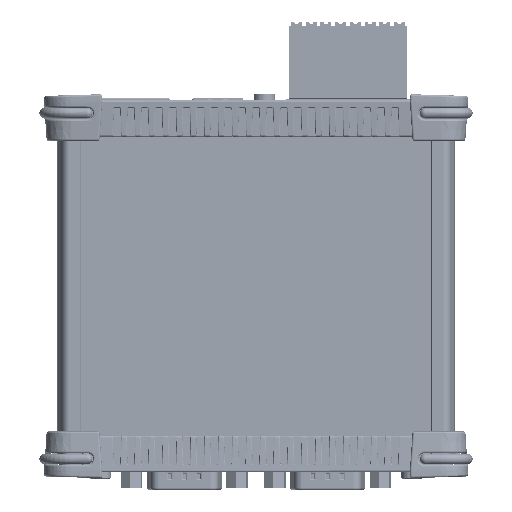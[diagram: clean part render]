
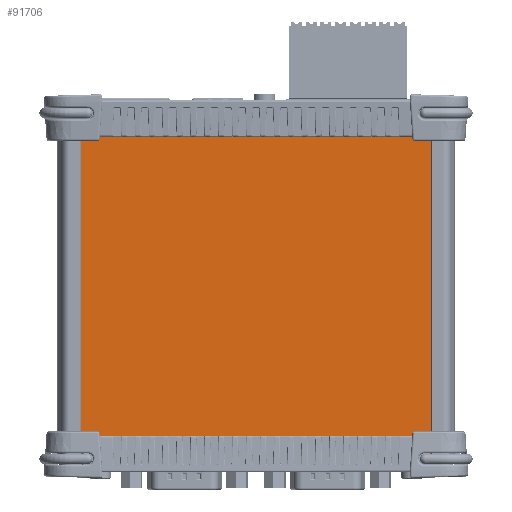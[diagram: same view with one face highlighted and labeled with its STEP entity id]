
A CAD part, front view. The second image highlights one B-rep face of the part: STEP entity #91706.
In plain terms, the highlighted planar face has unit normal (0, -1, 0).
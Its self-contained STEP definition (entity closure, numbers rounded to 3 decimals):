
#656 = VERTEX_POINT ( 'NONE', #122068 ) ;
#2548 = EDGE_LOOP ( 'NONE', ( #115384, #150618, #114226, #90254 ) ) ;
#10243 = VECTOR ( 'NONE', #64052, 1000. ) ;
#15940 = CARTESIAN_POINT ( 'NONE',  ( -28.941, -10.735, 0. ) ) ;
#19729 = CARTESIAN_POINT ( 'NONE',  ( 12.509, -10.735, 0. ) ) ;
#43793 = VECTOR ( 'NONE', #109682, 1000. ) ;
#46194 = LINE ( 'NONE', #51506, #10243 ) ;
#50748 = VERTEX_POINT ( 'NONE', #15940 ) ;
#51506 = CARTESIAN_POINT ( 'NONE',  ( 12.509, -10.735, 80. ) ) ;
#58825 = EDGE_CURVE ( 'NONE', #50748, #77798, #153748, .T. ) ;
#60667 = LINE ( 'NONE', #88980, #80849 ) ;
#63450 = AXIS2_PLACEMENT_3D ( 'NONE', #19729, #133870, #146427 ) ;
#64052 = DIRECTION ( 'NONE',  ( -1., 0., 0. ) ) ;
#65731 = VERTEX_POINT ( 'NONE', #132387 ) ;
#67669 = CARTESIAN_POINT ( 'NONE',  ( -28.941, -10.735, 0. ) ) ;
#77798 = VERTEX_POINT ( 'NONE', #111321 ) ;
#80849 = VECTOR ( 'NONE', #87755, 1000. ) ;
#87755 = DIRECTION ( 'NONE',  ( 0., 0., 1. ) ) ;
#88980 = CARTESIAN_POINT ( 'NONE',  ( 53.959, -10.735, 0. ) ) ;
#90254 = ORIENTED_EDGE ( 'NONE', *, *, #157622, .F. ) ;
#91706 = ADVANCED_FACE ( 'NONE', ( #132514 ), #117648, .T. ) ;
#109682 = DIRECTION ( 'NONE',  ( 0., 0., 1. ) ) ;
#111316 = VECTOR ( 'NONE', #114487, 1000. ) ;
#111321 = CARTESIAN_POINT ( 'NONE',  ( -28.941, -10.735, 80. ) ) ;
#114226 = ORIENTED_EDGE ( 'NONE', *, *, #58825, .F. ) ;
#114487 = DIRECTION ( 'NONE',  ( -1., 0., 0. ) ) ;
#115384 = ORIENTED_EDGE ( 'NONE', *, *, #117603, .T. ) ;
#115732 = CARTESIAN_POINT ( 'NONE',  ( 53.959, -10.735, 0. ) ) ;
#117603 = EDGE_CURVE ( 'NONE', #656, #65731, #60667, .T. ) ;
#117648 = PLANE ( 'NONE',  #63450 ) ;
#122068 = CARTESIAN_POINT ( 'NONE',  ( 53.959, -10.735, 0. ) ) ;
#132387 = CARTESIAN_POINT ( 'NONE',  ( 53.959, -10.735, 80. ) ) ;
#132514 = FACE_OUTER_BOUND ( 'NONE', #2548, .T. ) ;
#133870 = DIRECTION ( 'NONE',  ( 0., -1., 0. ) ) ;
#146427 = DIRECTION ( 'NONE',  ( 0., 0., -1. ) ) ;
#147276 = LINE ( 'NONE', #115732, #111316 ) ;
#150618 = ORIENTED_EDGE ( 'NONE', *, *, #170458, .T. ) ;
#153748 = LINE ( 'NONE', #67669, #43793 ) ;
#157622 = EDGE_CURVE ( 'NONE', #656, #50748, #147276, .T. ) ;
#170458 = EDGE_CURVE ( 'NONE', #65731, #77798, #46194, .T. ) ;
